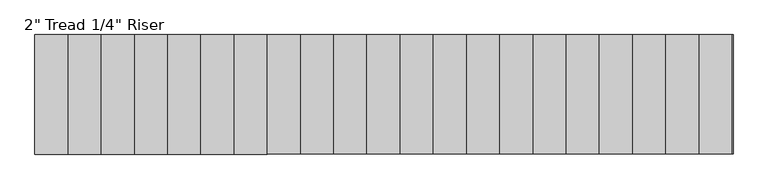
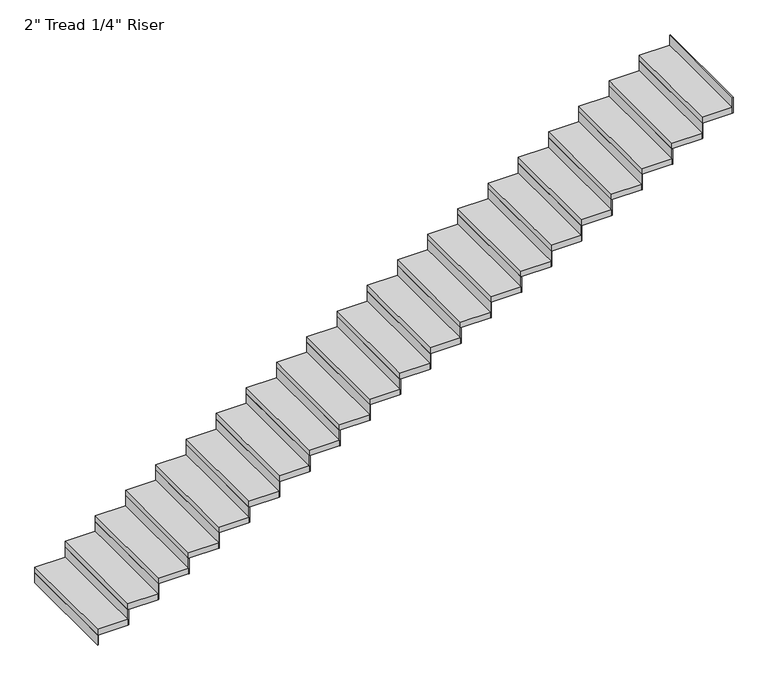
"""IFC4 building model written with IfcOpenShell, lengths in millimetres: stair flight geometry."""

from ifc_helpers import new_model, si_unit, frame, origin, origin_with_axes, place, context, project, spatial, polyline, outline, extrude, source, transform, mapped, element, save


def stair_flight_90c08f38(model_context):
    return source(origin(), model_context, "Body", "SweptSolid", [
        extrude(outline(polyline([(35788.2667764, -52193.6426165), (35781.9167764, -52193.6426165), (35781.9167764, -51279.2426165), (35788.2667764, -51279.2426165), (35788.2667764, -52193.6426165)])), origin_with_axes(), (0.0, 0.0, 1.0), 87.7454545),
        extrude(outline(polyline([(36035.9167764, -51279.2426165), (36035.9167764, -52193.6426165), (35781.9167764, -52193.6426165), (35781.9167764, -51279.2426165), (36035.9167764, -51279.2426165)])), frame((0.0, 0.0, 87.7454545), z_axis=(0.0, 0.0, 1.0), x_axis=(1.0, 0.0, 0.0)), (0.0, 0.0, 1.0), 50.8),
        extrude(outline(polyline([(36042.2667764, -52193.6426165), (36035.9167764, -52193.6426165), (36035.9167764, -51279.2426165), (36042.2667764, -51279.2426165), (36042.2667764, -52193.6426165)])), frame((0.0, 0.0, 87.7454545), z_axis=(0.0, 0.0, 1.0), x_axis=(1.0, 0.0, 0.0)), (0.0, 0.0, 1.0), 138.5454545),
        extrude(outline(polyline([(36289.9167764, -51279.2426165), (36289.9167764, -52193.6426165), (36035.9167764, -52193.6426165), (36035.9167764, -51279.2426165), (36289.9167764, -51279.2426165)])), frame((0.0, 0.0, 226.2909091), z_axis=(0.0, 0.0, 1.0), x_axis=(1.0, 0.0, 0.0)), (0.0, 0.0, 1.0), 50.8),
        extrude(outline(polyline([(36296.2667764, -52193.6426165), (36289.9167764, -52193.6426165), (36289.9167764, -51279.2426165), (36296.2667764, -51279.2426165), (36296.2667764, -52193.6426165)])), frame((0.0, 0.0, 226.2909091), z_axis=(0.0, 0.0, 1.0), x_axis=(1.0, 0.0, 0.0)), (0.0, 0.0, 1.0), 138.5454545),
        extrude(outline(polyline([(36543.9167764, -51279.2426165), (36543.9167764, -52193.6426165), (36289.9167764, -52193.6426165), (36289.9167764, -51279.2426165), (36543.9167764, -51279.2426165)])), frame((0.0, 0.0, 364.8363636), z_axis=(0.0, 0.0, 1.0), x_axis=(1.0, 0.0, 0.0)), (0.0, 0.0, 1.0), 50.8),
        extrude(outline(polyline([(36550.2667764, -52193.6426165), (36543.9167764, -52193.6426165), (36543.9167764, -51279.2426165), (36550.2667764, -51279.2426165), (36550.2667764, -52193.6426165)])), frame((0.0, 0.0, 364.8363636), z_axis=(0.0, 0.0, 1.0), x_axis=(1.0, 0.0, 0.0)), (0.0, 0.0, 1.0), 138.5454545),
        extrude(outline(polyline([(36797.9167764, -51279.2426165), (36797.9167764, -52193.6426165), (36543.9167764, -52193.6426165), (36543.9167764, -51279.2426165), (36797.9167764, -51279.2426165)])), frame((0.0, 0.0, 503.3818182), z_axis=(0.0, 0.0, 1.0), x_axis=(1.0, 0.0, 0.0)), (0.0, 0.0, 1.0), 50.8),
        extrude(outline(polyline([(36804.2667764, -52193.6426165), (36797.9167764, -52193.6426165), (36797.9167764, -51279.2426165), (36804.2667764, -51279.2426165), (36804.2667764, -52193.6426165)])), frame((0.0, 0.0, 503.3818182), z_axis=(0.0, 0.0, 1.0), x_axis=(1.0, 0.0, 0.0)), (0.0, 0.0, 1.0), 138.5454545),
        extrude(outline(polyline([(37051.9167764, -51279.2426165), (37051.9167764, -52193.6426165), (36797.9167764, -52193.6426165), (36797.9167764, -51279.2426165), (37051.9167764, -51279.2426165)])), frame((0.0, 0.0, 641.9272727), z_axis=(0.0, 0.0, 1.0), x_axis=(1.0, 0.0, 0.0)), (0.0, 0.0, 1.0), 50.8),
        extrude(outline(polyline([(37058.2667764, -52193.6426165), (37051.9167764, -52193.6426165), (37051.9167764, -51279.2426165), (37058.2667764, -51279.2426165), (37058.2667764, -52193.6426165)])), frame((0.0, 0.0, 641.9272727), z_axis=(0.0, 0.0, 1.0), x_axis=(1.0, 0.0, 0.0)), (0.0, 0.0, 1.0), 138.5454545),
        extrude(outline(polyline([(37305.9167764, -51279.2426165), (37305.9167764, -52193.6426165), (37051.9167764, -52193.6426165), (37051.9167764, -51279.2426165), (37305.9167764, -51279.2426165)])), frame((0.0, 0.0, 780.4727273), z_axis=(0.0, 0.0, 1.0), x_axis=(1.0, 0.0, 0.0)), (0.0, 0.0, 1.0), 50.8),
        extrude(outline(polyline([(37312.2667764, -52193.6426165), (37305.9167764, -52193.6426165), (37305.9167764, -51279.2426165), (37312.2667764, -51279.2426165), (37312.2667764, -52193.6426165)])), frame((0.0, 0.0, 780.4727273), z_axis=(0.0, 0.0, 1.0), x_axis=(1.0, 0.0, 0.0)), (0.0, 0.0, 1.0), 138.5454545),
        extrude(outline(polyline([(37559.9167764, -51279.2426165), (37559.9167764, -52193.6426165), (37305.9167764, -52193.6426165), (37305.9167764, -51279.2426165), (37559.9167764, -51279.2426165)])), frame((0.0, 0.0, 919.0181818), z_axis=(0.0, 0.0, 1.0), x_axis=(1.0, 0.0, 0.0)), (0.0, 0.0, 1.0), 50.8),
        extrude(outline(polyline([(37566.2667764, -52193.6426165), (37559.9167764, -52193.6426165), (37559.9167764, -51279.2426165), (37566.2667764, -51279.2426165), (37566.2667764, -52193.6426165)])), frame((0.0, 0.0, 919.0181818), z_axis=(0.0, 0.0, 1.0), x_axis=(1.0, 0.0, 0.0)), (0.0, 0.0, 1.0), 138.5454545),
        extrude(outline(polyline([(37813.9167764, -51279.2426165), (37813.9167764, -52193.6426165), (37559.9167764, -52193.6426165), (37559.9167764, -51279.2426165), (37813.9167764, -51279.2426165)])), frame((0.0, 0.0, 1057.5636364), z_axis=(0.0, 0.0, 1.0), x_axis=(1.0, 0.0, 0.0)), (0.0, 0.0, 1.0), 50.8),
        extrude(outline(polyline([(37820.2667764, -52193.6426165), (37813.9167764, -52193.6426165), (37813.9167764, -51279.2426165), (37820.2667764, -51279.2426165), (37820.2667764, -52193.6426165)])), frame((0.0, 0.0, 1057.5636364), z_axis=(0.0, 0.0, 1.0), x_axis=(1.0, 0.0, 0.0)), (0.0, 0.0, 1.0), 138.5454545),
        extrude(outline(polyline([(38067.9167764, -51279.2426165), (38067.9167764, -52193.6426165), (37813.9167764, -52193.6426165), (37813.9167764, -51279.2426165), (38067.9167764, -51279.2426165)])), frame((0.0, 0.0, 1196.1090909), z_axis=(0.0, 0.0, 1.0), x_axis=(1.0, 0.0, 0.0)), (0.0, 0.0, 1.0), 50.8),
        extrude(outline(polyline([(38074.2667764, -52193.6426165), (38067.9167764, -52193.6426165), (38067.9167764, -51279.2426165), (38074.2667764, -51279.2426165), (38074.2667764, -52193.6426165)])), frame((0.0, 0.0, 1196.1090909), z_axis=(0.0, 0.0, 1.0), x_axis=(1.0, 0.0, 0.0)), (0.0, 0.0, 1.0), 138.5454545),
        extrude(outline(polyline([(38321.9167764, -51279.2426165), (38321.9167764, -52193.6426165), (38067.9167764, -52193.6426165), (38067.9167764, -51279.2426165), (38321.9167764, -51279.2426165)])), frame((0.0, 0.0, 1334.6545455), z_axis=(0.0, 0.0, 1.0), x_axis=(1.0, 0.0, 0.0)), (0.0, 0.0, 1.0), 50.8),
        extrude(outline(polyline([(38328.2667764, -52193.6426165), (38321.9167764, -52193.6426165), (38321.9167764, -51279.2426165), (38328.2667764, -51279.2426165), (38328.2667764, -52193.6426165)])), frame((0.0, 0.0, 1334.6545455), z_axis=(0.0, 0.0, 1.0), x_axis=(1.0, 0.0, 0.0)), (0.0, 0.0, 1.0), 138.5454545),
        extrude(outline(polyline([(38575.9167764, -51279.2426165), (38575.9167764, -52193.6426165), (38321.9167764, -52193.6426165), (38321.9167764, -51279.2426165), (38575.9167764, -51279.2426165)])), frame((0.0, 0.0, 1473.2), z_axis=(0.0, 0.0, 1.0), x_axis=(1.0, 0.0, 0.0)), (0.0, 0.0, 1.0), 50.8),
        extrude(outline(polyline([(38582.2667764, -52193.6426165), (38575.9167764, -52193.6426165), (38575.9167764, -51279.2426165), (38582.2667764, -51279.2426165), (38582.2667764, -52193.6426165)])), frame((0.0, 0.0, 1473.2), z_axis=(0.0, 0.0, 1.0), x_axis=(1.0, 0.0, 0.0)), (0.0, 0.0, 1.0), 138.5454545),
        extrude(outline(polyline([(38829.9167764, -51279.2426165), (38829.9167764, -52193.6426165), (38575.9167764, -52193.6426165), (38575.9167764, -51279.2426165), (38829.9167764, -51279.2426165)])), frame((0.0, 0.0, 1611.7454545), z_axis=(0.0, 0.0, 1.0), x_axis=(1.0, 0.0, 0.0)), (0.0, 0.0, 1.0), 50.8),
        extrude(outline(polyline([(38836.2667764, -52193.6426165), (38829.9167764, -52193.6426165), (38829.9167764, -51279.2426165), (38836.2667764, -51279.2426165), (38836.2667764, -52193.6426165)])), frame((0.0, 0.0, 1611.7454545), z_axis=(0.0, 0.0, 1.0), x_axis=(1.0, 0.0, 0.0)), (0.0, 0.0, 1.0), 138.5454545),
        extrude(outline(polyline([(39083.9167764, -51279.2426165), (39083.9167764, -52193.6426165), (38829.9167764, -52193.6426165), (38829.9167764, -51279.2426165), (39083.9167764, -51279.2426165)])), frame((0.0, 0.0, 1750.2909091), z_axis=(0.0, 0.0, 1.0), x_axis=(1.0, 0.0, 0.0)), (0.0, 0.0, 1.0), 50.8),
        extrude(outline(polyline([(39090.2667764, -52193.6426165), (39083.9167764, -52193.6426165), (39083.9167764, -51279.2426165), (39090.2667764, -51279.2426165), (39090.2667764, -52193.6426165)])), frame((0.0, 0.0, 1750.2909091), z_axis=(0.0, 0.0, 1.0), x_axis=(1.0, 0.0, 0.0)), (0.0, 0.0, 1.0), 138.5454545),
        extrude(outline(polyline([(39337.9167764, -51279.2426165), (39337.9167764, -52193.6426165), (39083.9167764, -52193.6426165), (39083.9167764, -51279.2426165), (39337.9167764, -51279.2426165)])), frame((0.0, 0.0, 1888.8363636), z_axis=(0.0, 0.0, 1.0), x_axis=(1.0, 0.0, 0.0)), (0.0, 0.0, 1.0), 50.8),
        extrude(outline(polyline([(39344.2667764, -52193.6426165), (39337.9167764, -52193.6426165), (39337.9167764, -51279.2426165), (39344.2667764, -51279.2426165), (39344.2667764, -52193.6426165)])), frame((0.0, 0.0, 1888.8363636), z_axis=(0.0, 0.0, 1.0), x_axis=(1.0, 0.0, 0.0)), (0.0, 0.0, 1.0), 138.5454545),
        extrude(outline(polyline([(39591.9167764, -51279.2426165), (39591.9167764, -52193.6426165), (39337.9167764, -52193.6426165), (39337.9167764, -51279.2426165), (39591.9167764, -51279.2426165)])), frame((0.0, 0.0, 2027.3818182), z_axis=(0.0, 0.0, 1.0), x_axis=(1.0, 0.0, 0.0)), (0.0, 0.0, 1.0), 50.8),
        extrude(outline(polyline([(39598.2667764, -52193.6426165), (39591.9167764, -52193.6426165), (39591.9167764, -51279.2426165), (39598.2667764, -51279.2426165), (39598.2667764, -52193.6426165)])), frame((0.0, 0.0, 2027.3818182), z_axis=(0.0, 0.0, 1.0), x_axis=(1.0, 0.0, 0.0)), (0.0, 0.0, 1.0), 138.5454545),
        extrude(outline(polyline([(39845.9167764, -51279.2426165), (39845.9167764, -52193.6426165), (39591.9167764, -52193.6426165), (39591.9167764, -51279.2426165), (39845.9167764, -51279.2426165)])), frame((0.0, 0.0, 2165.9272727), z_axis=(0.0, 0.0, 1.0), x_axis=(1.0, 0.0, 0.0)), (0.0, 0.0, 1.0), 50.8),
        extrude(outline(polyline([(39852.2667764, -52193.6426165), (39845.9167764, -52193.6426165), (39845.9167764, -51279.2426165), (39852.2667764, -51279.2426165), (39852.2667764, -52193.6426165)])), frame((0.0, 0.0, 2165.9272727), z_axis=(0.0, 0.0, 1.0), x_axis=(1.0, 0.0, 0.0)), (0.0, 0.0, 1.0), 138.5454545),
        extrude(outline(polyline([(40099.9167764, -51279.2426165), (40099.9167764, -52193.6426165), (39845.9167764, -52193.6426165), (39845.9167764, -51279.2426165), (40099.9167764, -51279.2426165)])), frame((0.0, 0.0, 2304.4727273), z_axis=(0.0, 0.0, 1.0), x_axis=(1.0, 0.0, 0.0)), (0.0, 0.0, 1.0), 50.8),
        extrude(outline(polyline([(40106.2667764, -52193.6426165), (40099.9167764, -52193.6426165), (40099.9167764, -51279.2426165), (40106.2667764, -51279.2426165), (40106.2667764, -52193.6426165)])), frame((0.0, 0.0, 2304.4727273), z_axis=(0.0, 0.0, 1.0), x_axis=(1.0, 0.0, 0.0)), (0.0, 0.0, 1.0), 138.5454545),
        extrude(outline(polyline([(40353.9167764, -51279.2426165), (40353.9167764, -52193.6426165), (40099.9167764, -52193.6426165), (40099.9167764, -51279.2426165), (40353.9167764, -51279.2426165)])), frame((0.0, 0.0, 2443.0181818), z_axis=(0.0, 0.0, 1.0), x_axis=(1.0, 0.0, 0.0)), (0.0, 0.0, 1.0), 50.8),
        extrude(outline(polyline([(40360.2667764, -52193.6426165), (40353.9167764, -52193.6426165), (40353.9167764, -51279.2426165), (40360.2667764, -51279.2426165), (40360.2667764, -52193.6426165)])), frame((0.0, 0.0, 2443.0181818), z_axis=(0.0, 0.0, 1.0), x_axis=(1.0, 0.0, 0.0)), (0.0, 0.0, 1.0), 138.5454545),
        extrude(outline(polyline([(40607.9167764, -51279.2426165), (40607.9167764, -52193.6426165), (40353.9167764, -52193.6426165), (40353.9167764, -51279.2426165), (40607.9167764, -51279.2426165)])), frame((0.0, 0.0, 2581.5636364), z_axis=(0.0, 0.0, 1.0), x_axis=(1.0, 0.0, 0.0)), (0.0, 0.0, 1.0), 50.8),
        extrude(outline(polyline([(40614.2667764, -52193.6426165), (40607.9167764, -52193.6426165), (40607.9167764, -51279.2426165), (40614.2667764, -51279.2426165), (40614.2667764, -52193.6426165)])), frame((0.0, 0.0, 2581.5636364), z_axis=(0.0, 0.0, 1.0), x_axis=(1.0, 0.0, 0.0)), (0.0, 0.0, 1.0), 138.5454545),
        extrude(outline(polyline([(40861.9167764, -51279.2426165), (40861.9167764, -52193.6426165), (40607.9167764, -52193.6426165), (40607.9167764, -51279.2426165), (40861.9167764, -51279.2426165)])), frame((0.0, 0.0, 2720.1090909), z_axis=(0.0, 0.0, 1.0), x_axis=(1.0, 0.0, 0.0)), (0.0, 0.0, 1.0), 50.8),
        extrude(outline(polyline([(40868.2667764, -52193.6426165), (40861.9167764, -52193.6426165), (40861.9167764, -51279.2426165), (40868.2667764, -51279.2426165), (40868.2667764, -52193.6426165)])), frame((0.0, 0.0, 2720.1090909), z_axis=(0.0, 0.0, 1.0), x_axis=(1.0, 0.0, 0.0)), (0.0, 0.0, 1.0), 138.5454545),
        extrude(outline(polyline([(41122.2667764, -52193.6426165), (41115.9167764, -52193.6426165), (41115.9167764, -51279.2426165), (41122.2667764, -51279.2426165), (41122.2667764, -52193.6426165)])), frame((0.0, 0.0, 2858.6545455), z_axis=(0.0, 0.0, 1.0), x_axis=(1.0, 0.0, 0.0)), (0.0, 0.0, 1.0), 138.5454545),
        extrude(outline(polyline([(41115.9167764, -51279.2426165), (41115.9167764, -52193.6426165), (40861.9167764, -52193.6426165), (40861.9167764, -51279.2426165), (41115.9167764, -51279.2426165)])), frame((0.0, 0.0, 2858.6545455), z_axis=(0.0, 0.0, 1.0), x_axis=(1.0, 0.0, 0.0)), (0.0, 0.0, 1.0), 50.8),
    ])


if __name__ == "__main__":
    model = new_model("IFC4")
    model_context = context("Model", 3, world=origin())
    ifc_project = project(units=[si_unit("LENGTHUNIT", "METRE", prefix="MILLI")], contexts=[model_context])
    site = spatial("IfcSite", under=ifc_project)
    building = spatial("IfcBuilding", under=site)
    placement = place(None, origin())
    stair_flight_shape = stair_flight_90c08f38(model_context)
    element("IfcStairFlight", 1, ObjectType="2\" Tread 1/4\" Riser", at=placement, inside=building, context=model_context, shape_type="MappedRepresentation", body=[
        mapped(stair_flight_shape, transform((0.0, 0.0, 0.0), x_axis=(1.0, 0.0, 0.0), y_axis=(0.0, 1.0, 0.0), z_axis=(0.0, 0.0, 1.0))),
    ])
    save(model, "model.ifc")
